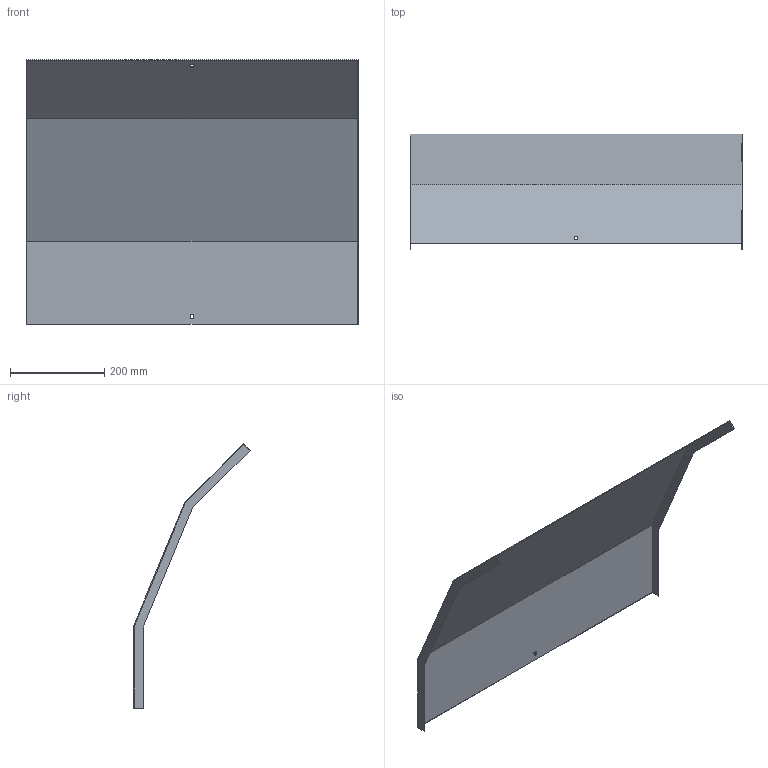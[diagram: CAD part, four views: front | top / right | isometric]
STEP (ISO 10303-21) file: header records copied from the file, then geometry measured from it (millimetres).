
FILE_DESCRIPTION (( 'STEP AP214' ), '1' );
FILE_NAME ('A2_34N3J700.step', '2025-02-21T10:35:36', ( '' ), ( '' ), 'SwSTEP 2.0', 'SolidWorks 2023', '' );
FILE_SCHEMA (( 'AUTOMOTIVE_DESIGN' ));
Length unit declared in the file: millimetre
Products named in the file (1): A2_34N3J700
Bounding box: 703 x 246.09 x 559.98 mm (x, y, z)
Volume: 701254 mm3; surface area: 939171.1 mm2
Topology: 1 solids, 1 shells, 26 faces, 72 edges, 48 vertices
Faces by surface type: plane 26
Entity records: 847 total; most frequent: CARTESIAN_POINT 147, ORIENTED_EDGE 144, DIRECTION 126, EDGE_CURVE 72, LINE 72, VECTOR 72, VERTEX_POINT 48, EDGE_LOOP 30
